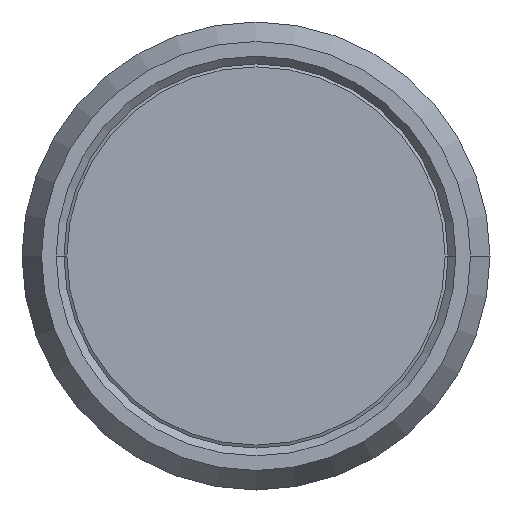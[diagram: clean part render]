
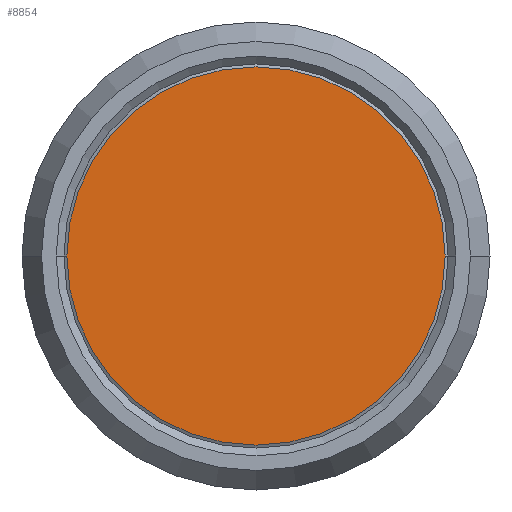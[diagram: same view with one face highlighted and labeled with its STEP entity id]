
A CAD part, front view. The second image highlights one B-rep face of the part: STEP entity #8854.
In plain terms, the highlighted planar face has unit normal (0, -1, 0) as drawn and (0, 0, 1) by its records, which use the part's own axes.
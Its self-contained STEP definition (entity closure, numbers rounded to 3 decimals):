
#8633=CARTESIAN_POINT('',(0.,0.,0.));
#8634=DIRECTION('',(0.,0.,1.));
#8635=DIRECTION('',(1.,0.,0.));
#8636=AXIS2_PLACEMENT_3D('',#8633,#8634,#8635);
#8678=CARTESIAN_POINT('',(0.,0.,0.));
#8679=DIRECTION('',(0.,0.,-1.));
#8680=DIRECTION('',(1.,0.,0.));
#8681=AXIS2_PLACEMENT_3D('',#8678,#8679,#8680);
#8815=CARTESIAN_POINT('',(4.85,0.,0.));
#8816=CARTESIAN_POINT('',(-4.85,0.,0.));
#8817=VERTEX_POINT('',#8815);
#8818=VERTEX_POINT('',#8816);
#8843=CARTESIAN_POINT('',(0.,0.,0.));
#8844=DIRECTION('',(0.,0.,1.));
#8845=DIRECTION('',(-1.,0.,0.));
#8846=AXIS2_PLACEMENT_3D('',#8843,#8844,#8845);
#8847=PLANE('',#8846);
#8849=ORIENTED_EDGE('',*,*,#8848,.F.);
#8851=ORIENTED_EDGE('',*,*,#8850,.T.);
#8852=EDGE_LOOP('',(#8849,#8851));
#8853=FACE_OUTER_BOUND('',#8852,.F.);
#8854=ADVANCED_FACE('',(#8853),#8847,.T.);
#8637=CIRCLE('',#8636,4.85);
#8682=CIRCLE('',#8681,4.85);
#8848=EDGE_CURVE('',#8817,#8818,#8637,.T.);
#8850=EDGE_CURVE('',#8817,#8818,#8682,.T.);
